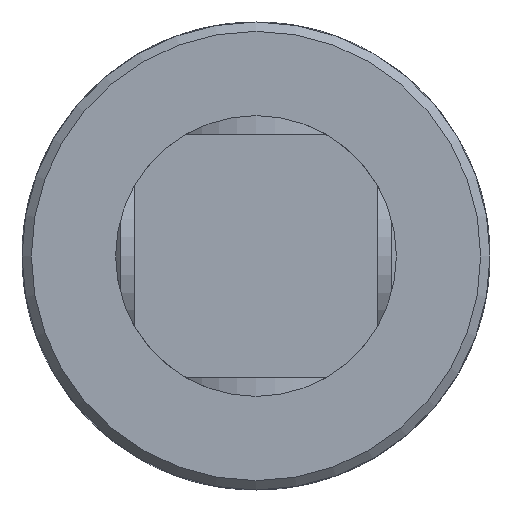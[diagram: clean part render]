
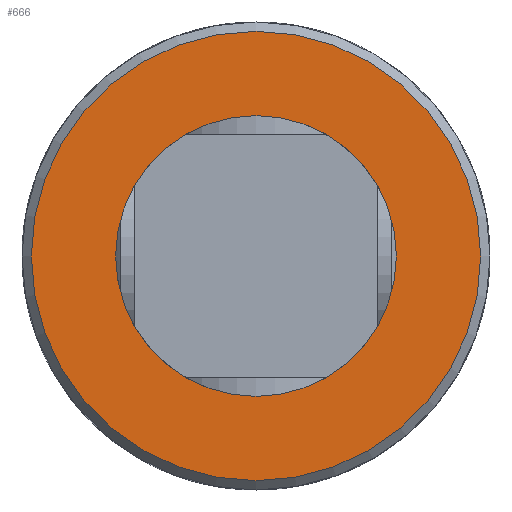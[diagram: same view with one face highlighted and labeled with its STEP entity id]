
A CAD part, front view. The second image highlights one B-rep face of the part: STEP entity #666.
In plain terms, the highlighted planar face has unit normal (0, -1, 0).
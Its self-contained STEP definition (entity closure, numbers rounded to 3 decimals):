
#129=PLANE('',#731);
#155=FACE_BOUND('',#241,.T.);
#183=FACE_OUTER_BOUND('',#240,.T.);
#240=EDGE_LOOP('',(#535));
#241=EDGE_LOOP('',(#536));
#279=CIRCLE('',#718,15.);
#286=CIRCLE('',#729,24.);
#324=VERTEX_POINT('',#1094);
#330=VERTEX_POINT('',#1135);
#395=EDGE_CURVE('',#324,#324,#279,.T.);
#404=EDGE_CURVE('',#330,#330,#286,.T.);
#535=ORIENTED_EDGE('',*,*,#404,.F.);
#536=ORIENTED_EDGE('',*,*,#395,.T.);
#666=ADVANCED_FACE('',(#183,#155),#129,.F.);
#718=AXIS2_PLACEMENT_3D('',#1095,#840,#841);
#729=AXIS2_PLACEMENT_3D('',#1136,#862,#863);
#731=AXIS2_PLACEMENT_3D('',#1344,#870,#871);
#840=DIRECTION('center_axis',(0.,1.,0.));
#841=DIRECTION('ref_axis',(-1.,0.,0.));
#862=DIRECTION('center_axis',(0.,1.,0.));
#863=DIRECTION('ref_axis',(1.,0.,0.));
#870=DIRECTION('center_axis',(0.,1.,0.));
#871=DIRECTION('ref_axis',(0.,0.,1.));
#1094=CARTESIAN_POINT('',(15.,-78.5,0.));
#1095=CARTESIAN_POINT('Origin',(0.,-78.5,0.));
#1135=CARTESIAN_POINT('',(-24.,-78.5,0.));
#1136=CARTESIAN_POINT('Origin',(0.,-78.5,0.));
#1344=CARTESIAN_POINT('Origin',(0.,-78.5,0.));
